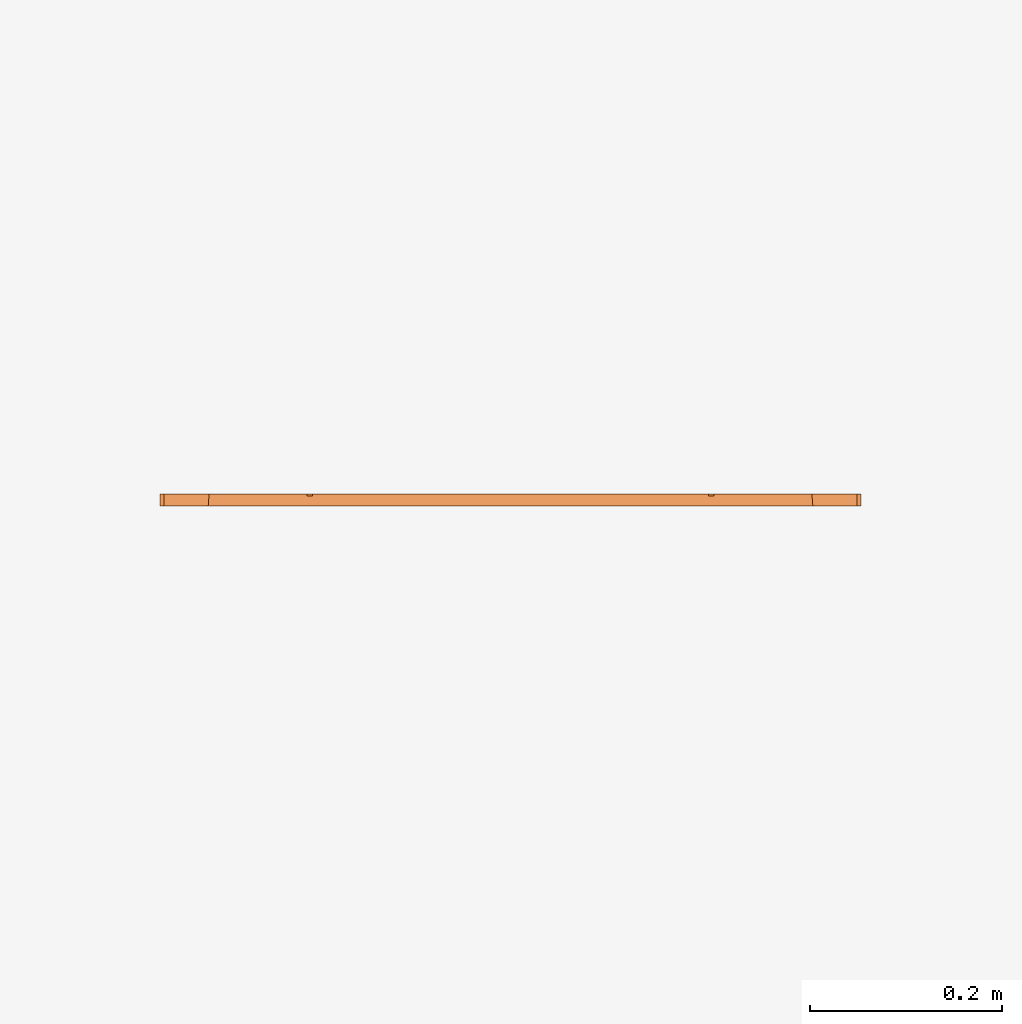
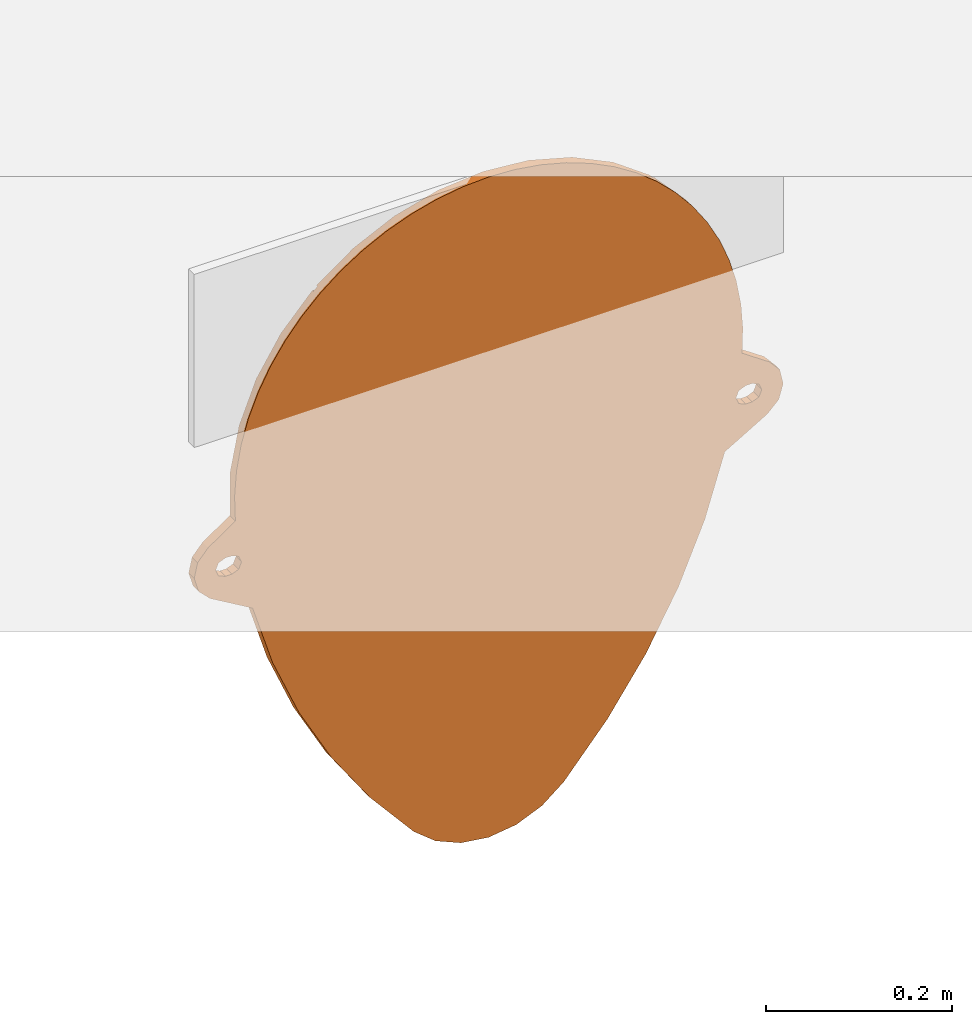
# One storey, part 2 of 2: 1 proxy.
"""IFC2X3 building model written with IfcOpenShell, lengths in millimetres."""

from ifc_helpers import new_model, entity, si_unit, converted_unit, direction, frame, origin, place, context, subcontext, project, spatial, faceted_brep, source, transform, mapped, element, save


model = new_model("IFC2X3")

# Units and contexts
model_context = context("Model", 3, precision=1e-06, world=origin(), true_north=direction((2.0, 6.12303176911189e-17, 1.0)))
context_of_model = context(None, 3, precision=1e-06, world=origin(), true_north=direction((2.0, 6.12303176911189e-17, 1.0)))
body_context = subcontext(model_context, "Body", "Model", "MODEL_VIEW")
ifc_project = project(units=[si_unit("LENGTHUNIT", "METRE", prefix="MILLI"), si_unit("AREAUNIT", "SQUARE_METRE", prefix="MILLI"), si_unit("VOLUMEUNIT", "CUBIC_METRE", prefix="MILLI"), converted_unit("PLANEANGLEUNIT", "DEGREE", entity("IfcRatioMeasure", 0.0174532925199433), si_unit("PLANEANGLEUNIT", "RADIAN"), dimensions=[0, 0, 0, 0, 0, 0, 0]), si_unit("TIMEUNIT", "SECOND")], contexts=[model_context, context_of_model])

# Site, building, storey
site_placement = place(None, origin())
site = spatial("IfcSite", under=ifc_project, at=site_placement, Name="Default", CompositionType="ELEMENT")
building_placement = place(site_placement, origin())
building = spatial("IfcBuilding", under=site, at=building_placement, CompositionType="ELEMENT")
storey_placement = place(building_placement, origin())
storey = spatial("IfcBuildingStorey", under=building, at=storey_placement, Name="Level 1", CompositionType="ELEMENT", Elevation=0.0)

# Proxy
shared_shape = source(origin(), body_context, "Body", "Brep", [
    faceted_brep([(31.7586986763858, 12.0, 461.158073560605), (31.7586986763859, 0.0, 461.158073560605), (40.2439800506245, 0.0, 457.643354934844), (40.2439800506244, 12.0, 457.643354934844), (28.2439800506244, 0.0, 469.643354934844), (28.2439800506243, 12.0, 469.643354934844), (40.2439800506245, 0.0, 481.643354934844), (31.7586986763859, 0.0, 478.128636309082), (31.7586986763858, 12.0, 478.128636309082), (40.2439800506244, 12.0, 481.643354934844), (676.404795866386, 12.0, 461.158073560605), (676.404795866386, 0.0, 461.158073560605), (684.890077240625, 0.0, 457.643354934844), (684.890077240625, 12.0, 457.643354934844), (672.890077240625, 0.0, 469.643354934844), (672.890077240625, 12.0, 469.643354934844), (684.890077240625, 0.0, 481.643354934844), (676.404795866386, 0.0, 478.128636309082), (676.404795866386, 12.0, 478.128636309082), (684.890077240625, 12.0, 481.643354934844), (718.903809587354, 12.0, 442.18675846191), (725.940696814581, 12.0, 449.193955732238), (721.544861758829, 0.0, 444.816667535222), (711.866922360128, 0.0, 435.179561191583), (728.739740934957, 0.0, 458.722016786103), (725.940696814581, 0.0, 449.193955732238), (728.739740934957, 12.0, 458.722016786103), (731.538785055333, 12.0, 468.250077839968), (731.538785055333, 0.0, 468.250077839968), (720.749038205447, 12.0, 495.129820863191), (714.217078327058, 12.0, 502.609934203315), (714.217078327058, 0.0, 502.609934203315), (723.200583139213, 0.0, 492.322419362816), (727.280998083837, 12.0, 487.649707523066), (727.280998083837, 0.0, 487.649707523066), (729.409891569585, 0.0, 477.949892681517), (729.409891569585, 12.0, 477.949892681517), (711.866922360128, 12.0, 435.179561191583), (680.507002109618, 12.0, 525.774872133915), (679.964409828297, 12.0, 583.329819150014), (681.495963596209, 0.0, 558.286006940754), (668.95828887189, 12.0, 639.825231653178), (673.425684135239, 0.0, 622.748385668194), (637.107339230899, 0.0, 712.942538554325), (647.856105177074, 12.0, 693.374873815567), (617.362406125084, 12.0, 742.190861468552), (578.495297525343, 12.0, 784.643354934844), (578.495297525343, 10.0, 784.643354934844), (664.452489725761, 0.0, 654.012321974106), (598.254777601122, 0.0, 765.009861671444), (572.863200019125, 10.0, 789.643354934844), (572.863200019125, 12.0, 789.643354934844), (527.314925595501, 12.0, 822.4921412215), (493.056957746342, 0.0, 840.083223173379), (476.657568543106, 12.0, 846.730958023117), (422.501181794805, 12.0, 861.589418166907), (462.63375817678, 0.0, 851.588911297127), (575.012324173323, 0.0, 787.763768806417), (575.694192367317, 10.0, 787.160187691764), (399.049822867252, 0.0, 864.915983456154), (366.567028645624, 12.0, 866.595272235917), (366.567028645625, 0.0, 866.595272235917), (549.547395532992, 0.0, 807.999611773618), (431.186280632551, 0.0, 859.89602194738), (652.30319555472, 0.0, 684.184272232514), (679.127105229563, 0.0, 590.725804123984), (680.507002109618, 0.0, 525.774872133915), (522.131502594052, 0.0, 825.501632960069), (619.026941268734, 0.0, 739.980495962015), (256.476488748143, 12.0, 846.730958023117), (270.500299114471, 0.0, 851.588911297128), (310.632875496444, 12.0, 861.589418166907), (160.270857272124, 10.0, 789.643354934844), (205.819131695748, 12.0, 822.4921412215), (160.270857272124, 12.0, 789.643354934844), (334.084234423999, 0.0, 864.915983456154), (301.947776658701, 0.0, 859.89602194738), (240.077099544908, 0.0, 840.08322317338), (183.586661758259, 0.0, 807.999611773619), (85.2779521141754, 12.0, 693.374873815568), (96.0267180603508, 0.0, 712.942538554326), (115.771651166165, 12.0, 742.190861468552), (64.1757684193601, 12.0, 639.82523165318), (68.6815675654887, 0.0, 654.012321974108), (59.7083731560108, 0.0, 622.748385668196), (53.1696474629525, 12.0, 583.329819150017), (134.879279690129, 0.0, 765.009861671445), (154.638759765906, 10.0, 784.643354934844), (154.638759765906, 12.0, 784.643354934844), (158.121733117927, 0.0, 787.763768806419), (157.439864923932, 10.0, 787.160187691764), (51.6380936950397, 0.0, 558.286006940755), (52.6270551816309, 12.0, 525.774872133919), (211.002554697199, 0.0, 825.501632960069), (114.107116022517, 0.0, 739.980495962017), (80.83086173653, 0.0, 684.184272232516), (54.0069520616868, 0.0, 590.725804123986), (52.6270551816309, 0.0, 525.774872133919), (659.148483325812, 0.0, 404.121226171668), (659.148483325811, 12.0, 404.121226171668), (459.440242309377, 12.0, 41.5889879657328), (513.752956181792, 12.0, 105.196775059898), (513.752956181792, 0.0, 105.196775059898), (459.440242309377, 0.0, 41.5889879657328), (561.333297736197, 12.0, 173.985818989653), (561.333297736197, 0.0, 173.985818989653), (601.690418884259, 0.0, 247.246478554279), (601.690418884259, 12.0, 247.246478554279), (634.407987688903, 12.0, 324.222982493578), (634.407987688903, 0.0, 324.222982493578), (300.606426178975, 0.0, 19.9274596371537), (300.606426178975, 12.0, 19.9274596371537), (332.336668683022, 12.0, 6.26355969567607), (332.336668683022, 0.0, 6.26355969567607), (366.567028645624, 12.0, 1.59527223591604), (366.567028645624, 0.0, 1.59527223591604), (273.693814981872, 0.0, 41.588987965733), (273.693814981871, 12.0, 41.588987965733), (400.797388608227, 0.0, 6.26355969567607), (400.797388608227, 12.0, 6.26355969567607), (432.527631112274, 12.0, 19.9274596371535), (432.527631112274, 0.0, 19.9274596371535), (73.9855739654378, 12.0, 404.12122617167), (98.7260696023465, 12.0, 324.222982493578), (98.7260696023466, 0.0, 324.222982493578), (73.9855739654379, 0.0, 404.12122617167), (131.44363840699, 12.0, 247.246478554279), (131.44363840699, 0.0, 247.246478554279), (171.800759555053, 0.0, 173.985818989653), (171.800759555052, 12.0, 173.985818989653), (219.381101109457, 12.0, 105.196775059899), (219.381101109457, 0.0, 105.196775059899), (21.2671349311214, 0.0, 435.179561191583), (21.2671349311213, 12.0, 435.179561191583), (12.3850190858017, 12.0, 495.129820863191), (5.85305920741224, 12.0, 487.649707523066), (9.93347453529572, 0.0, 492.322419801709), (18.9169789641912, 0.0, 502.609934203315), (3.72416572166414, 12.0, 477.949892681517), (1.59527223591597, 12.0, 468.250077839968), (1.59527223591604, 0.0, 468.250077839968), (3.72416572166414, 0.0, 477.949892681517), (5.8530592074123, 0.0, 487.649707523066), (18.9169789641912, 12.0, 502.609934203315), (4.39431635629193, 0.0, 458.722016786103), (4.39431635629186, 12.0, 458.722016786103), (14.2302477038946, 0.0, 442.18675846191), (14.2302477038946, 12.0, 442.18675846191), (7.19336047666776, 12.0, 449.193955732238), (7.19336047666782, 0.0, 449.193955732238), (701.375358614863, 12.0, 461.158073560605), (704.890077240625, 12.0, 469.643354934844), (692.890077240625, 12.0, 457.643354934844), (60.2439800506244, 12.0, 469.643354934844), (701.375358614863, 12.0, 478.128636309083), (692.890077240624, 12.0, 481.643354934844), (48.2439800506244, 12.0, 457.643354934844), (56.729261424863, 12.0, 461.158073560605), (56.7292614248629, 12.0, 478.128636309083), (48.2439800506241, 12.0, 481.643354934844), (701.375358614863, 0.0, 461.158073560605), (692.890077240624, 0.0, 457.643354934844), (704.890077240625, 0.0, 469.643354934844), (701.375358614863, 0.0, 478.128636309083), (60.2439800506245, 0.0, 469.643354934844), (692.890077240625, 0.0, 481.643354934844), (56.7292614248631, 0.0, 461.158073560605), (56.7292614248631, 0.0, 478.128636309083), (48.2439800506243, 0.0, 457.643354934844), (48.2439800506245, 0.0, 481.643354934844)], [[[0, 1, 2, 3]], [[4, 1, 0, 5]], [[6, 7, 8, 9]], [[4, 5, 8, 7]], [[10, 11, 12, 13]], [[14, 11, 10, 15]], [[16, 17, 18, 19]], [[14, 15, 18, 17]], [[20, 21, 22, 23]], [[24, 25, 26, 27]], [[25, 21, 26]], [[27, 28, 24]], [[21, 25, 22]], [[29, 30, 31, 32]], [[33, 29, 32, 34]], [[35, 28, 36, 33]], [[20, 23, 37]], [[33, 34, 35]], [[28, 27, 36]], [[38, 39, 40]], [[39, 41, 42]], [[43, 44, 45]], [[46, 47, 45]], [[41, 44, 48]], [[47, 49, 45]], [[50, 51, 52]], [[53, 52, 54]], [[54, 55, 56]], [[57, 58, 50]], [[59, 60, 61]], [[52, 62, 50]], [[60, 59, 55]], [[47, 58, 57]], [[59, 63, 55]], [[44, 43, 64]], [[44, 64, 48]], [[40, 39, 65]], [[42, 65, 39]], [[48, 42, 41]], [[40, 66, 38]], [[67, 52, 53]], [[56, 53, 54]], [[62, 52, 67]], [[45, 49, 68]], [[49, 47, 57]], [[57, 50, 62]], [[68, 43, 45]], [[55, 63, 56]], [[69, 70, 71]], [[72, 73, 74]], [[61, 60, 75]], [[71, 76, 75]], [[73, 77, 69]], [[60, 71, 75]], [[72, 78, 73]], [[79, 80, 81]], [[82, 83, 79]], [[84, 82, 85]], [[86, 87, 81]], [[81, 87, 88]], [[89, 72, 90]], [[89, 90, 87]], [[91, 85, 92]], [[71, 70, 76]], [[69, 77, 70]], [[73, 93, 77]], [[73, 78, 93]], [[89, 78, 72]], [[86, 89, 87]], [[81, 94, 86]], [[81, 80, 94]], [[80, 79, 95]], [[83, 95, 79]], [[84, 83, 82]], [[84, 85, 96]], [[91, 96, 85]], [[92, 97, 91]], [[52, 60, 55, 54]], [[52, 51, 74]], [[74, 73, 69, 52]], [[69, 71, 60, 52]], [[30, 38, 66, 31]], [[98, 99, 37, 23]], [[100, 101, 102, 103]], [[101, 104, 105, 102]], [[106, 105, 104, 107]], [[108, 99, 98, 109]], [[107, 108, 109, 106]], [[110, 111, 112, 113]], [[113, 112, 114, 115]], [[116, 117, 111, 110]], [[118, 119, 120, 121]], [[121, 120, 100, 103]], [[119, 118, 115, 114]], [[122, 123, 124, 125]], [[123, 126, 127, 124]], [[128, 127, 126, 129]], [[129, 130, 131, 128]], [[130, 117, 116, 131]], [[122, 125, 132, 133]], [[134, 135, 136, 137]], [[138, 139, 140, 141]], [[135, 142, 136]], [[134, 137, 143]], [[135, 138, 141, 142]], [[144, 140, 139, 145]], [[132, 146, 147, 133]], [[148, 147, 146, 149]], [[145, 148, 149, 144]], [[143, 137, 97, 92]], [[21, 20, 150, 151]], [[13, 37, 99, 10]], [[37, 152, 150, 20]], [[152, 37, 13]], [[15, 10, 99, 153]], [[117, 100, 120, 111]], [[101, 100, 130, 129]], [[126, 108, 107, 129]], [[104, 101, 129, 107]], [[99, 108, 122, 153]], [[33, 36, 151, 154]], [[27, 26, 151, 36]], [[30, 29, 154, 155]], [[38, 30, 155, 19]], [[41, 39, 38, 44]], [[38, 18, 15, 92]], [[38, 19, 18]], [[38, 88, 46, 45]], [[44, 38, 45]], [[111, 120, 119, 112]], [[117, 130, 100]], [[108, 126, 123, 122]], [[122, 133, 156, 157]], [[133, 147, 0, 3]], [[156, 133, 3]], [[5, 0, 148, 145]], [[153, 122, 157]], [[88, 38, 92, 81]], [[153, 158, 92, 15]], [[79, 81, 92, 82]], [[85, 82, 92]], [[8, 5, 135, 134]], [[5, 139, 138, 135]], [[9, 143, 92, 159]], [[143, 9, 8, 134]], [[159, 92, 158]], [[114, 112, 119]], [[23, 22, 160, 161]], [[23, 161, 12, 98]], [[162, 160, 25, 24]], [[162, 28, 35, 34]], [[66, 17, 16]], [[163, 162, 34, 32]], [[128, 102, 105, 106]], [[116, 121, 103, 131]], [[131, 103, 102, 128]], [[127, 106, 109, 124]], [[98, 11, 14, 164]], [[125, 109, 98, 164]], [[98, 12, 11]], [[66, 97, 14, 17]], [[66, 16, 165, 31]], [[66, 40, 65, 42]], [[31, 165, 163, 32]], [[66, 42, 48, 64]], [[66, 64, 43, 68]], [[66, 68, 49, 57]], [[66, 57, 62, 67]], [[66, 67, 53, 56]], [[66, 56, 63, 59]], [[66, 59, 61, 97]], [[118, 121, 110, 113]], [[116, 110, 121]], [[166, 125, 164]], [[125, 124, 109]], [[127, 128, 106]], [[164, 14, 97, 167]], [[168, 125, 166]], [[132, 2, 1, 146]], [[168, 2, 132, 125]], [[149, 146, 1, 4]], [[4, 7, 142, 141]], [[140, 144, 4, 141]], [[89, 86, 97, 78]], [[94, 80, 97, 86]], [[97, 76, 70, 77]], [[97, 77, 93, 78]], [[75, 76, 97, 61]], [[6, 169, 97, 137]], [[97, 80, 95, 83]], [[7, 6, 137, 136]], [[84, 96, 97, 83]], [[91, 97, 96]], [[97, 169, 167]], [[113, 115, 118]], [[58, 72, 50]], [[87, 58, 47]], [[87, 90, 72, 58]], [[50, 72, 74, 51]], [[47, 46, 88, 87]], [[154, 163, 165, 155]], [[163, 154, 151, 162]], [[150, 160, 162, 151]], [[160, 150, 152, 161]], [[155, 165, 16, 19]], [[161, 152, 13, 12]], [[158, 167, 169, 159]], [[167, 158, 153, 164]], [[157, 166, 164, 153]], [[166, 157, 156, 168]], [[159, 169, 6, 9]], [[168, 156, 3, 2]], [[151, 26, 21]], [[154, 29, 33]], [[0, 147, 148]], [[5, 145, 139]], [[160, 22, 25]], [[162, 24, 28]], [[4, 144, 149]], [[7, 136, 142]]]),
])
proxy_placement = place(storey_placement, frame((-13165.5692570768, 2040.84257014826, -1039.84335493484)))
element("IfcBuildingElementProxy", 1, at=proxy_placement, inside=storey, Name="Closing End Cap (at Female end):Closing End Cap (at Female end):Closing End Cap (at Female end)", ObjectType="Closing End Cap (at Female end)", CompositionType="ELEMENT", context=body_context, shape_type="MappedRepresentation", body=[
    mapped(shared_shape, transform((0.0, 0.0, 0.0), scale=1.0)),
])

save(model, "model.ifc")
